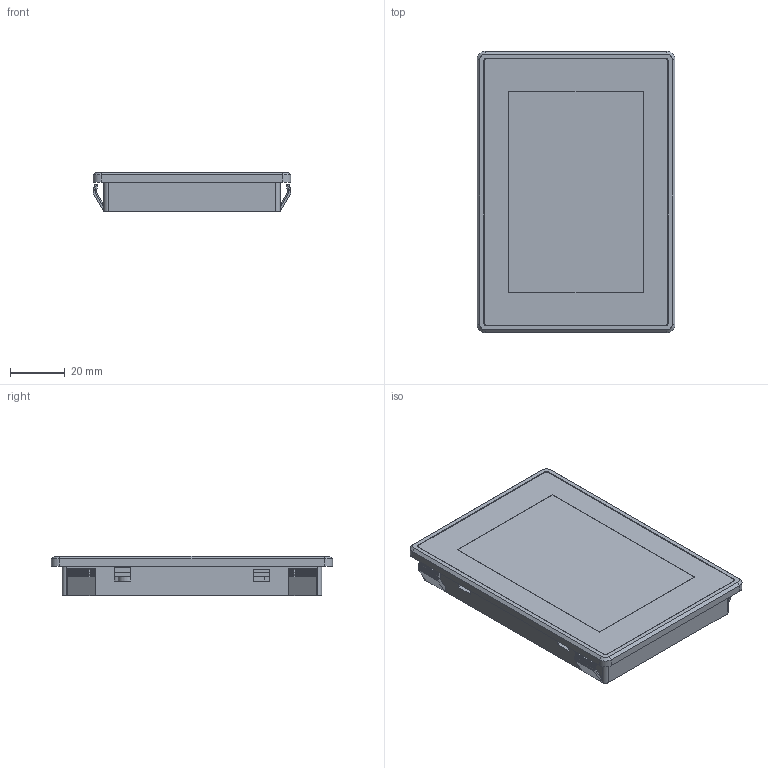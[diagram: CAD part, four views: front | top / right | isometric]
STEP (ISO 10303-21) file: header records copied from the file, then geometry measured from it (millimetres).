
FILE_DESCRIPTION((''),'2;1');
FILE_NAME('PRT0001','2024-11-07T',('Administrator'),(''),'PRO/ENGINEER BY PARAMETRIC TECHNOLOGY CORPORATION, 2014320','PRO/ENGINEER BY PARAMETRIC TECHNOLOGY CORPORATION, 2014320','');
FILE_SCHEMA(('CONFIG_CONTROL_DESIGN','SHAPE_APPEARANCE_LAYERS_GROUPS'));
Length unit declared in the file: millimetre
Products named in the file (1): PRT0001
Bounding box: 72.5 x 103 x 14.5 mm (x, y, z)
Volume: 53763.3 mm3; surface area: 40834.4 mm2
Topology: 1 solids, 5 shells, 483 faces, 1377 edges, 897 vertices
Faces by surface type: plane 431, cylinder 48, cone 4
Entity records: 15997 total; most frequent: CARTESIAN_POINT 2809, ORIENTED_EDGE 2754, DIRECTION 2415, EDGE_CURVE 1377, VECTOR 1281, LINE 1281, VERTEX_POINT 897, AXIS2_PLACEMENT_3D 567
